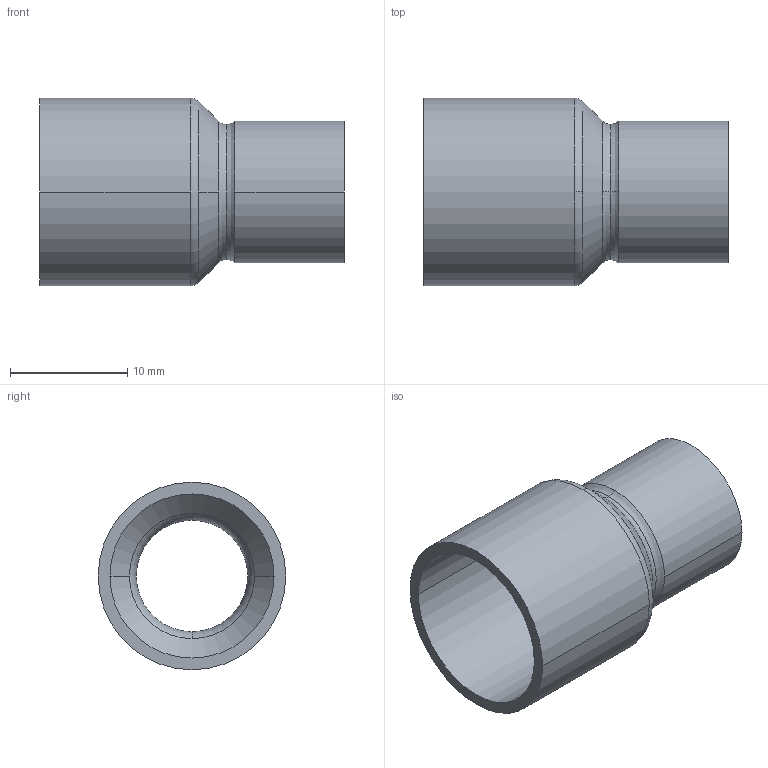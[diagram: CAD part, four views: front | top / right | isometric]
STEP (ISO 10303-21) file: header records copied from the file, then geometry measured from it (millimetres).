
FILE_DESCRIPTION((''),'2;1');
FILE_NAME('G:\Technics\CAD\Bauteile\Serie 15243\152431610.stp','2005-10-21T12:49:32',('boden'),(''),'Autodesk Inventor 8','Autodesk Inventor 8','');
FILE_SCHEMA(('AUTOMOTIVE_DESIGN { 1 0 10303 214 1 1 1 1 }'));
Length unit declared in the file: millimetre
Products named in the file (1): 152431610
Bounding box: 26 x 16 x 16 mm (x, y, z)
Volume: 1113.2 mm3; surface area: 2308.7 mm2
Topology: 1 solids, 1 shells, 24 faces, 60 edges, 38 vertices
Faces by surface type: cylinder 8, torus 6, bspline 4, cone 4, plane 2
Entity records: 931 total; most frequent: CARTESIAN_POINT 299, DIRECTION 150, ORIENTED_EDGE 120, AXIS2_PLACEMENT_3D 69, EDGE_CURVE 60, CIRCLE 48, VERTEX_POINT 38, EDGE_LOOP 26
